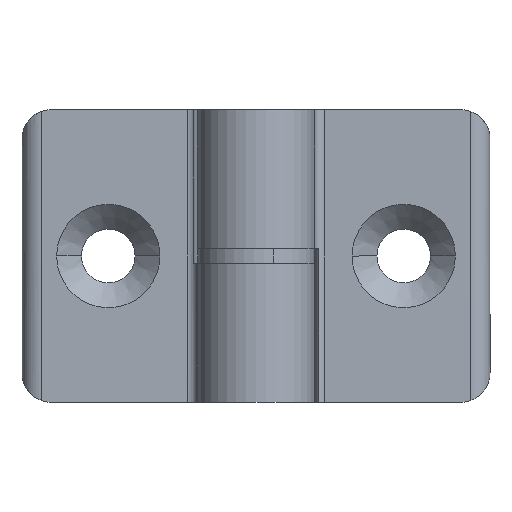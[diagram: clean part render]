
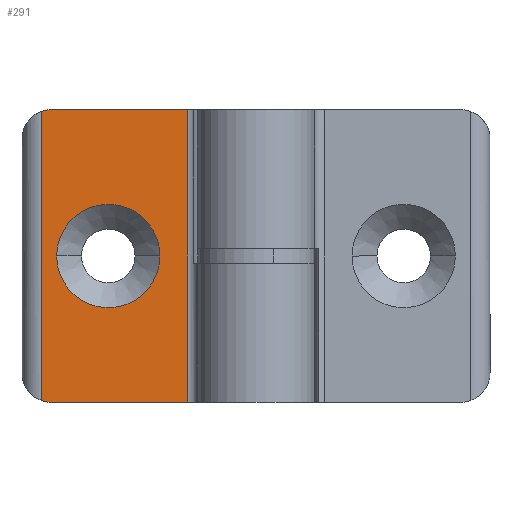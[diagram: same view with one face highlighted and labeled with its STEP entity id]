
A CAD part, front view. The second image highlights one B-rep face of the part: STEP entity #291.
In plain terms, the highlighted planar face has unit normal (0, -1, 0).
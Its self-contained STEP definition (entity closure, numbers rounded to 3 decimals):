
#4 = CARTESIAN_POINT ( 'NONE',  ( -11.691, 1., 0. ) ) ;
#14 = PLANE ( 'NONE',  #828 ) ;
#62 = ORIENTED_EDGE ( 'NONE', *, *, #1841, .F. ) ;
#111 = CARTESIAN_POINT ( 'NONE',  ( -15.15, 1., 0. ) ) ;
#155 = AXIS2_PLACEMENT_3D ( 'NONE', #1653, #1293, #1982 ) ;
#157 = CIRCLE ( 'NONE', #1512, 3. ) ;
#183 = EDGE_CURVE ( 'NONE', #1599, #1021, #545, .T. ) ;
#184 = DIRECTION ( 'NONE',  ( 0., 1., 0. ) ) ;
#215 = CARTESIAN_POINT ( 'NONE',  ( -22., 1., 14.828 ) ) ;
#231 = VERTEX_POINT ( 'NONE', #1326 ) ;
#250 = ORIENTED_EDGE ( 'NONE', *, *, #745, .F. ) ;
#268 = AXIS2_PLACEMENT_3D ( 'NONE', #111, #824, #623 ) ;
#291 = ADVANCED_FACE ( 'NONE', ( #317, #1733 ), #14, .T. ) ;
#317 = FACE_BOUND ( 'NONE', #1816, .T. ) ;
#318 = DIRECTION ( 'NONE',  ( -1., 0., 0. ) ) ;
#339 = VECTOR ( 'NONE', #2113, 1000. ) ;
#350 = CARTESIAN_POINT ( 'NONE',  ( -21., 1., -15. ) ) ;
#357 = DIRECTION ( 'NONE',  ( 0., -1., 0. ) ) ;
#414 = CARTESIAN_POINT ( 'NONE',  ( -9.85, 1., 0. ) ) ;
#447 = EDGE_CURVE ( 'NONE', #603, #231, #859, .T. ) ;
#480 = EDGE_CURVE ( 'NONE', #2172, #603, #1101, .T. ) ;
#504 = EDGE_CURVE ( 'NONE', #611, #2172, #157, .T. ) ;
#514 = DIRECTION ( 'NONE',  ( 0., 0., -1. ) ) ;
#543 = VERTEX_POINT ( 'NONE', #561 ) ;
#545 = CIRCLE ( 'NONE', #268, 5.3 ) ;
#549 = CARTESIAN_POINT ( 'NONE',  ( -7., 1., 0. ) ) ;
#561 = CARTESIAN_POINT ( 'NONE',  ( -22., 1., -14.828 ) ) ;
#573 = CARTESIAN_POINT ( 'NONE',  ( -7., 1., 15. ) ) ;
#592 = VECTOR ( 'NONE', #318, 1000. ) ;
#603 = VERTEX_POINT ( 'NONE', #573 ) ;
#611 = VERTEX_POINT ( 'NONE', #215 ) ;
#623 = DIRECTION ( 'NONE',  ( 1., 0., 0. ) ) ;
#655 = VERTEX_POINT ( 'NONE', #2028 ) ;
#691 = DIRECTION ( 'NONE',  ( 1., 0., 0. ) ) ;
#729 = CARTESIAN_POINT ( 'NONE',  ( 0., 1., 15. ) ) ;
#745 = EDGE_CURVE ( 'NONE', #655, #543, #1119, .T. ) ;
#824 = DIRECTION ( 'NONE',  ( 0., 1., 0. ) ) ;
#828 = AXIS2_PLACEMENT_3D ( 'NONE', #4, #357, #1365 ) ;
#859 = LINE ( 'NONE', #549, #1987 ) ;
#943 = DIRECTION ( 'NONE',  ( 0., 0., 1. ) ) ;
#952 = ORIENTED_EDGE ( 'NONE', *, *, #447, .F. ) ;
#971 = EDGE_CURVE ( 'NONE', #611, #543, #1233, .T. ) ;
#1014 = CARTESIAN_POINT ( 'NONE',  ( -15.15, 1., 0. ) ) ;
#1021 = VERTEX_POINT ( 'NONE', #414 ) ;
#1101 = LINE ( 'NONE', #729, #1620 ) ;
#1119 = CIRCLE ( 'NONE', #155, 3. ) ;
#1233 = LINE ( 'NONE', #1920, #339 ) ;
#1235 = DIRECTION ( 'NONE',  ( 0., 1., 0. ) ) ;
#1248 = ORIENTED_EDGE ( 'NONE', *, *, #1260, .T. ) ;
#1260 = EDGE_CURVE ( 'NONE', #1021, #1599, #2144, .T. ) ;
#1278 = ORIENTED_EDGE ( 'NONE', *, *, #480, .F. ) ;
#1293 = DIRECTION ( 'NONE',  ( 0., 1., 0. ) ) ;
#1304 = CARTESIAN_POINT ( 'NONE',  ( -21., 1., 15. ) ) ;
#1326 = CARTESIAN_POINT ( 'NONE',  ( -7., 1., -15. ) ) ;
#1365 = DIRECTION ( 'NONE',  ( 0., 0., -1. ) ) ;
#1512 = AXIS2_PLACEMENT_3D ( 'NONE', #1971, #1235, #943 ) ;
#1599 = VERTEX_POINT ( 'NONE', #2119 ) ;
#1620 = VECTOR ( 'NONE', #2148, 1000. ) ;
#1653 = CARTESIAN_POINT ( 'NONE',  ( -21., 1., -12. ) ) ;
#1661 = ORIENTED_EDGE ( 'NONE', *, *, #971, .T. ) ;
#1729 = ORIENTED_EDGE ( 'NONE', *, *, #504, .F. ) ;
#1733 = FACE_OUTER_BOUND ( 'NONE', #1778, .T. ) ;
#1778 = EDGE_LOOP ( 'NONE', ( #1661, #250, #62, #952, #1278, #1729 ) ) ;
#1815 = AXIS2_PLACEMENT_3D ( 'NONE', #1014, #184, #691 ) ;
#1816 = EDGE_LOOP ( 'NONE', ( #1248, #2162 ) ) ;
#1841 = EDGE_CURVE ( 'NONE', #231, #655, #2068, .T. ) ;
#1920 = CARTESIAN_POINT ( 'NONE',  ( -22., 1., 0. ) ) ;
#1971 = CARTESIAN_POINT ( 'NONE',  ( -21., 1., 12. ) ) ;
#1982 = DIRECTION ( 'NONE',  ( -1., 0., 0. ) ) ;
#1987 = VECTOR ( 'NONE', #514, 1000. ) ;
#2028 = CARTESIAN_POINT ( 'NONE',  ( -21., 1., -15. ) ) ;
#2068 = LINE ( 'NONE', #350, #592 ) ;
#2113 = DIRECTION ( 'NONE',  ( 0., 0., -1. ) ) ;
#2119 = CARTESIAN_POINT ( 'NONE',  ( -20.45, 1., 0. ) ) ;
#2144 = CIRCLE ( 'NONE', #1815, 5.3 ) ;
#2148 = DIRECTION ( 'NONE',  ( 1., 0., 0. ) ) ;
#2162 = ORIENTED_EDGE ( 'NONE', *, *, #183, .T. ) ;
#2172 = VERTEX_POINT ( 'NONE', #1304 ) ;
